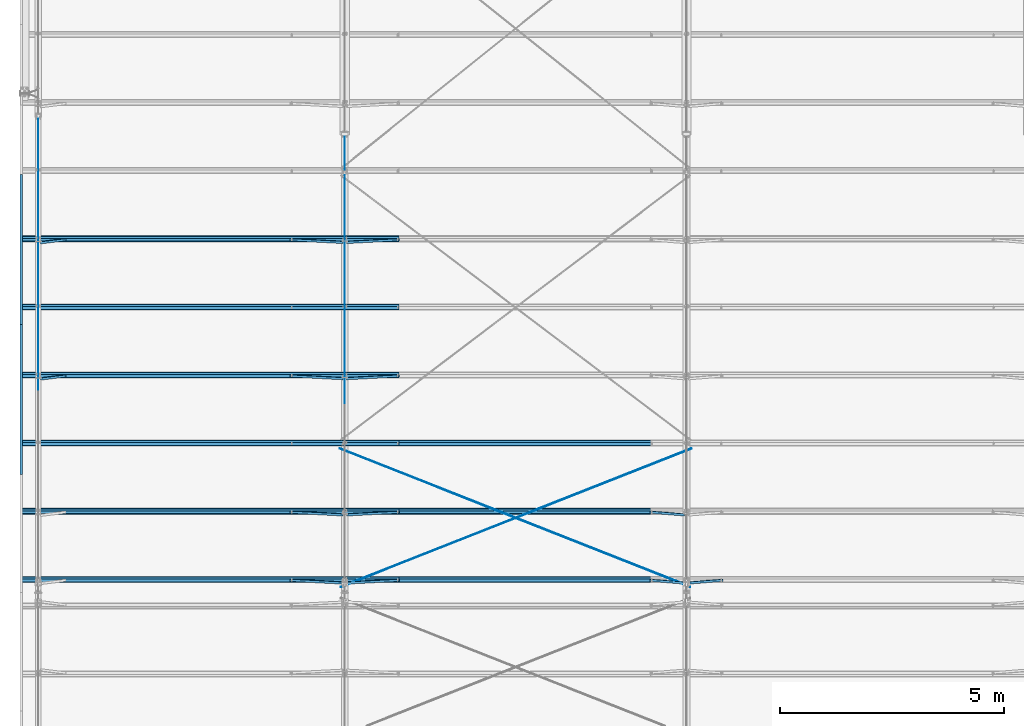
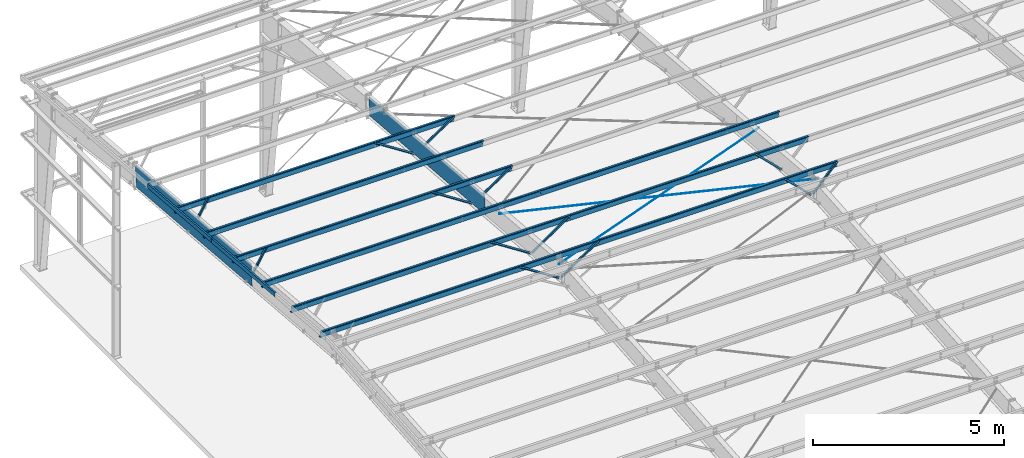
# One storey, part 11 of 185: 15 beams, 13 members, 28 elements without a shape of their own.
"""IFC2X3 building model written with IfcOpenShell, lengths in millimetres."""

from ifc_helpers import new_model, si_unit, frame, origin_with_axes, origin_2d_with_axis, place, context, subcontext, project, spatial, polyline, rectangle, circle, outline, extrude, clip, halfspace, material, type_object, element, aggregate, save


model = new_model("IFC2X3")

# Units and contexts
model_context = context("Model", 3, precision=1e-05, world=origin_with_axes())
body_context = subcontext(model_context, "Body", "Model", "MODEL_VIEW")
ifc_project = project(units=[si_unit("LENGTHUNIT", "METRE", prefix="MILLI"), si_unit("AREAUNIT", "SQUARE_METRE"), si_unit("VOLUMEUNIT", "CUBIC_METRE"), si_unit("MASSUNIT", "GRAM", prefix="KILO"), si_unit("TIMEUNIT", "SECOND"), si_unit("PLANEANGLEUNIT", "RADIAN"), si_unit("SOLIDANGLEUNIT", "STERADIAN"), si_unit("THERMODYNAMICTEMPERATUREUNIT", "DEGREE_CELSIUS"), si_unit("LUMINOUSINTENSITYUNIT", "LUMEN")], contexts=[model_context])

# Site, building, storey
site_placement = place(None, origin_with_axes())
site = spatial("IfcSite", under=ifc_project, at=site_placement, Name="Undefined", CompositionType="ELEMENT")
building_placement = place(site_placement, origin_with_axes())
building = spatial("IfcBuilding", under=site, at=building_placement, Name="Undefined", CompositionType="ELEMENT")
storey_placement = place(building_placement, origin_with_axes())
storey = spatial("IfcBuildingStorey", under=building, at=storey_placement, Name="Undefined", CompositionType="ELEMENT", Elevation=0.0)

# Assembly, beam
assembly_1_placement = place(storey_placement, origin_with_axes())
assembly_1 = element("IfcElementAssembly", 1, at=assembly_1_placement, inside=storey, Name="Steel Assembly", AssemblyPlace="NOTDEFINED", PredefinedType="RIGID_FRAME")
ifc_material = material(Name="STEEL/55")
beam_type_1 = type_object("IfcBeamType", Name="8Z15", PredefinedType="NOTDEFINED")
beam_1_placement = place(assembly_1_placement, frame((14859.0, 19334.7807729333, 7049.81610363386), z_axis=(0.0, -0.0830454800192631, -0.996545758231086), x_axis=(-1.0, 0.0, 0.0)))
beam_1 = element("IfcBeam", 2, at=beam_1_placement, type_object=beam_type_1, material=ifc_material, Name="Purlin", ObjectType="8Z15", context=body_context, shape_type="Clipping", body=[
    clip(clip(extrude(outline(polyline([(-75.75, 87.0100021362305), (-63.5, 101.599998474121), (1.5900000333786, 101.599998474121), (1.5900000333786, -98.4199981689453), (62.0200004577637, -98.4199981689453), (73.3099975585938, -84.9700012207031), (75.7399978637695, -87.0100021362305), (63.5, -101.599998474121), (-1.5900000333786, -101.599998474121), (-1.5900000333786, 98.4199981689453), (-62.0200004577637, 98.4199981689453), (-73.3099975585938, 84.9700012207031), (-75.75, 87.0100021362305)])), frame((8826.5, 0.0, 0.0), z_axis=(-1.0, 0.0, 0.0), x_axis=(0.0, -1.0, 0.0)), (0.0, 0.0, 1.0), 9626.6), halfspace(frame((8826.5, 2.91402102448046e-09, -101.600000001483), z_axis=(-1.0, 0.0, 0.0), x_axis=(0.0, 0.0, 1.0)), True)), halfspace(frame((-800.1, 2.91402102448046e-09, -101.600000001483), z_axis=(-1.0, 0.0, 0.0), x_axis=(0.0, 0.0, 1.0)), False)),
])
aggregate(assembly_1, [beam_1])

assembly_2_placement = place(storey_placement, origin_with_axes())
assembly_2 = element("IfcElementAssembly", 3, at=assembly_2_placement, inside=storey, Name="Steel Assembly", AssemblyPlace="NOTDEFINED", PredefinedType="RIGID_FRAME")
beam_2_placement = place(assembly_2_placement, frame((14859.0, 17816.0450373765, 7176.3774151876), z_axis=(0.0, -0.0830454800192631, -0.996545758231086), x_axis=(-1.0, 0.0, 0.0)))
beam_2 = element("IfcBeam", 4, at=beam_2_placement, type_object=beam_type_1, material=ifc_material, Name="Purlin", ObjectType="8Z15", context=body_context, shape_type="Clipping", body=[
    clip(clip(extrude(outline(polyline([(-75.75, 87.0100021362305), (-63.5, 101.599998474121), (1.5900000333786, 101.599998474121), (1.5900000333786, -98.4199981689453), (62.0200004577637, -98.4199981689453), (73.3099975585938, -84.9700012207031), (75.7399978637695, -87.0100021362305), (63.5, -101.599998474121), (-1.5900000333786, -101.599998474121), (-1.5900000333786, 98.4199981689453), (-62.0200004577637, 98.4199981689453), (-73.3099975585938, 84.9700012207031), (-75.75, 87.0100021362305)])), frame((8826.5, 0.0, 0.0), z_axis=(-1.0, 0.0, 0.0), x_axis=(0.0, -1.0, 0.0)), (0.0, 0.0, 1.0), 9626.6), halfspace(frame((8826.5, 2.91402102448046e-09, -101.600000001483), z_axis=(-1.0, 0.0, 0.0), x_axis=(0.0, 0.0, 1.0)), True)), halfspace(frame((-800.1, 2.91402102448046e-09, -101.600000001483), z_axis=(-1.0, 0.0, 0.0), x_axis=(0.0, 0.0, 1.0)), False)),
])
aggregate(assembly_2, [beam_2])

assembly_3_placement = place(storey_placement, origin_with_axes())
assembly_3 = element("IfcElementAssembly", 5, at=assembly_3_placement, inside=storey, Name="Steel Assembly", AssemblyPlace="NOTDEFINED", PredefinedType="RIGID_FRAME")
beam_3_placement = place(assembly_3_placement, frame((14859.0, 16297.3093018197, 7302.93872674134), z_axis=(0.0, -0.0830454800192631, -0.996545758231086), x_axis=(-1.0, 0.0, 0.0)))
beam_3 = element("IfcBeam", 6, at=beam_3_placement, type_object=beam_type_1, material=ifc_material, Name="Purlin", ObjectType="8Z15", context=body_context, shape_type="Clipping", body=[
    clip(clip(extrude(outline(polyline([(-75.75, 87.0100021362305), (-63.5, 101.599998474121), (1.5900000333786, 101.599998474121), (1.5900000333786, -98.4199981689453), (62.0200004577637, -98.4199981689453), (73.3099975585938, -84.9700012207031), (75.7399978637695, -87.0100021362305), (63.5, -101.599998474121), (-1.5900000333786, -101.599998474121), (-1.5900000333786, 98.4199981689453), (-62.0200004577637, 98.4199981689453), (-73.3099975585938, 84.9700012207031), (-75.75, 87.0100021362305)])), frame((8826.5, 0.0, 0.0), z_axis=(-1.0, 0.0, 0.0), x_axis=(0.0, -1.0, 0.0)), (0.0, 0.0, 1.0), 9626.6), halfspace(frame((8826.5, 2.91402102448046e-09, -101.600000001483), z_axis=(-1.0, 0.0, 0.0), x_axis=(0.0, 0.0, 1.0)), True)), halfspace(frame((-800.1, 2.91402102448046e-09, -101.600000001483), z_axis=(-1.0, 0.0, 0.0), x_axis=(0.0, 0.0, 1.0)), False)),
])
aggregate(assembly_3, [beam_3])

# Assembly, member
assembly_4_placement = place(storey_placement, origin_with_axes())
assembly_4 = element("IfcElementAssembly", 7, at=assembly_4_placement, inside=storey, Name="Steel Assembly", AssemblyPlace="NOTDEFINED", PredefinedType="RIGID_FRAME")
member_type = type_object("IfcMemberType", Name="FB-", PredefinedType="NOTDEFINED")
member_1_placement = place(assembly_4_placement, frame((7277.08732044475, 23833.3687176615, 5978.70102518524), z_axis=(-0.530152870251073, 0.0704144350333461, 0.844973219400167), x_axis=(0.847902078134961, 0.0440268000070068, 0.528321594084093)))
member_1 = element("IfcMember", 8, at=member_1_placement, type_object=member_type, material=ifc_material, Name="2X2 FLANGE BRACE X 48", ObjectType="FB-", context=body_context, shape_type="SweptSolid", body=[
    extrude(outline(polyline([(1.5900000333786, 1.59000003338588), (50.7999992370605, 1.59000003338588), (50.7999992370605, 7.27595761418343e-12), (0.0, 0.0), (0.0, 50.7999992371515), (1.5900000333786, 50.7999992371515), (1.5900000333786, 1.59000003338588)])), frame((1389.32938756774, -1.81898940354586e-12, 7.71232737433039e-14), z_axis=(-1.0, 0.0, 0.0), x_axis=(0.0, -1.0, 0.0)), (0.0, 0.0, 1.0), 1389.3),
])
aggregate(assembly_4, [member_1])

assembly_5_placement = place(storey_placement, origin_with_axes())
assembly_5 = element("IfcElementAssembly", 9, at=assembly_5_placement, inside=storey, Name="Steel Assembly", AssemblyPlace="NOTDEFINED", PredefinedType="RIGID_FRAME")
member_2_placement = place(assembly_5_placement, frame((7277.08732045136, 20795.897246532, 6231.82364778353), z_axis=(-0.530152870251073, 0.0704144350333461, 0.844973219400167), x_axis=(0.847902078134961, 0.0440268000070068, 0.528321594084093)))
member_2 = element("IfcMember", 10, at=member_2_placement, type_object=member_type, material=ifc_material, Name="2X2 FLANGE BRACE X 48", ObjectType="FB-", context=body_context, shape_type="SweptSolid", body=[
    extrude(outline(polyline([(1.5900000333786, 1.59000003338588), (50.7999992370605, 1.59000003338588), (50.7999992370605, 7.27595761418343e-12), (0.0, 0.0), (0.0, 50.7999992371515), (1.5900000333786, 50.7999992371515), (1.5900000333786, 1.59000003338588)])), frame((1389.32938756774, -1.81898940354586e-12, 7.71232737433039e-14), z_axis=(-1.0, 0.0, 0.0), x_axis=(0.0, -1.0, 0.0)), (0.0, 0.0, 1.0), 1389.3),
])
aggregate(assembly_5, [member_2])

assembly_6_placement = place(storey_placement, origin_with_axes())
assembly_6 = element("IfcElementAssembly", 11, at=assembly_6_placement, inside=storey, Name="Steel Assembly", AssemblyPlace="NOTDEFINED", PredefinedType="RIGID_FRAME")
member_3_placement = place(assembly_6_placement, frame((7277.08732047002, 17758.425775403, 6484.94627036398), z_axis=(-0.530152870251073, 0.0704144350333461, 0.844973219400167), x_axis=(0.847902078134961, 0.0440268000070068, 0.528321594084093)))
member_3 = element("IfcMember", 12, at=member_3_placement, type_object=member_type, material=ifc_material, Name="2X2 FLANGE BRACE X 48", ObjectType="FB-", context=body_context, shape_type="SweptSolid", body=[
    extrude(outline(polyline([(1.5900000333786, 1.59000003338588), (50.7999992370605, 1.59000003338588), (50.7999992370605, 7.27595761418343e-12), (0.0, 0.0), (0.0, 50.7999992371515), (1.5900000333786, 50.7999992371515), (1.5900000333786, 1.59000003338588)])), frame((1389.32938756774, -1.81898940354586e-12, 7.71232737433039e-14), z_axis=(-1.0, 0.0, 0.0), x_axis=(0.0, -1.0, 0.0)), (0.0, 0.0, 1.0), 1389.3),
])
aggregate(assembly_6, [member_3])

assembly_7_placement = place(storey_placement, origin_with_axes())
assembly_7 = element("IfcElementAssembly", 13, at=assembly_7_placement, inside=storey, Name="Steel Assembly", AssemblyPlace="NOTDEFINED", PredefinedType="RIGID_FRAME")
member_4_placement = place(assembly_7_placement, frame((14904.6857108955, 16239.6140265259, 6610.59542169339), z_axis=(-0.697745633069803, 0.0594892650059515, 0.713871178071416), x_axis=(0.716345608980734, 0.0579446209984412, 0.6953354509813)))
member_4 = element("IfcMember", 14, at=member_4_placement, type_object=member_type, material=ifc_material, Name="2X2 FLANGE BRACE X 48", ObjectType="FB-", context=body_context, shape_type="SweptSolid", body=[
    extrude(outline(polyline([(1.5900000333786, 1.59000003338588), (50.7999992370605, 1.59000003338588), (50.7999992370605, 7.27595761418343e-12), (0.0, 0.0), (0.0, 50.7999992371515), (1.5900000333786, 50.7999992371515), (1.5900000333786, 1.59000003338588)])), frame((1067.82563693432, 1.82639893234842e-12, 1.75971317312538e-12), z_axis=(-1.0, 0.0, 0.0), x_axis=(0.0, -1.0, 0.0)), (0.0, 0.0, 1.0), 1067.8),
])
aggregate(assembly_7, [member_4])

assembly_8_placement = place(storey_placement, origin_with_axes())
assembly_8 = element("IfcElementAssembly", 15, at=assembly_8_placement, inside=storey, Name="Steel Assembly", AssemblyPlace="NOTDEFINED", PredefinedType="RIGID_FRAME")
member_5_placement = place(assembly_8_placement, frame((7277.08732047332, 16239.6900398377, 6611.50758166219), z_axis=(-0.530152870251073, 0.0704144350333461, 0.844973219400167), x_axis=(0.847902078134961, 0.0440268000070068, 0.528321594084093)))
member_5 = element("IfcMember", 16, at=member_5_placement, type_object=member_type, material=ifc_material, Name="2X2 FLANGE BRACE X 48", ObjectType="FB-", context=body_context, shape_type="SweptSolid", body=[
    extrude(outline(polyline([(1.5900000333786, 1.59000003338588), (50.7999992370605, 1.59000003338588), (50.7999992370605, 7.27595761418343e-12), (0.0, 0.0), (0.0, 50.7999992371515), (1.5900000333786, 50.7999992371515), (1.5900000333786, 1.59000003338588)])), frame((1389.32938756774, -1.81898940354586e-12, 7.71232737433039e-14), z_axis=(-1.0, 0.0, 0.0), x_axis=(0.0, -1.0, 0.0)), (0.0, 0.0, 1.0), 1389.3),
])
aggregate(assembly_8, [member_5])

assembly_9_placement = place(storey_placement, origin_with_axes())
assembly_9 = element("IfcElementAssembly", 17, at=assembly_9_placement, inside=storey, Name="Steel Assembly", AssemblyPlace="NOTDEFINED", PredefinedType="RIGID_FRAME")
member_6_placement = place(assembly_9_placement, frame((7200.91267952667, 16239.6900398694, 6611.50758164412), z_axis=(0.0, -0.996545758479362, 0.0830454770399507), x_axis=(-0.847902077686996, 0.0440267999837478, 0.52832159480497)))
member_6 = element("IfcMember", 18, at=member_6_placement, type_object=member_type, material=ifc_material, Name="2X2 FLANGE BRACE X 48", ObjectType="FB-", context=body_context, shape_type="SweptSolid", body=[
    extrude(outline(polyline([(1.5900000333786, 1.59000003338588), (50.7999992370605, 1.59000003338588), (50.7999992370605, 7.27595761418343e-12), (0.0, 0.0), (0.0, 50.7999992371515), (1.5900000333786, 50.7999992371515), (1.5900000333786, 1.59000003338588)])), frame((1389.32938756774, -1.81898940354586e-12, 7.71232737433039e-14), z_axis=(-1.0, 0.0, 0.0), x_axis=(0.0, -1.0, 0.0)), (0.0, 0.0, 1.0), 1389.3),
])
aggregate(assembly_9, [member_6])

assembly_10_placement = place(storey_placement, origin_with_axes())
assembly_10 = element("IfcElementAssembly", 19, at=assembly_10_placement, inside=storey, Name="Steel Assembly", AssemblyPlace="NOTDEFINED", PredefinedType="RIGID_FRAME")
member_7_placement = place(assembly_10_placement, frame((7200.91267952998, 17758.4257754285, 6484.94627034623), z_axis=(0.0, -0.996545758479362, 0.0830454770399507), x_axis=(-0.847902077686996, 0.0440267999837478, 0.52832159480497)))
member_7 = element("IfcMember", 20, at=member_7_placement, type_object=member_type, material=ifc_material, Name="2X2 FLANGE BRACE X 48", ObjectType="FB-", context=body_context, shape_type="SweptSolid", body=[
    extrude(outline(polyline([(1.5900000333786, 1.59000003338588), (50.7999992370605, 1.59000003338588), (50.7999992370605, 7.27595761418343e-12), (0.0, 0.0), (0.0, 50.7999992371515), (1.5900000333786, 50.7999992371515), (1.5900000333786, 1.59000003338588)])), frame((1389.32938756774, -1.81898940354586e-12, 7.71232737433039e-14), z_axis=(-1.0, 0.0, 0.0), x_axis=(0.0, -1.0, 0.0)), (0.0, 0.0, 1.0), 1389.3),
])
aggregate(assembly_10, [member_7])

assembly_11_placement = place(storey_placement, origin_with_axes())
assembly_11 = element("IfcElementAssembly", 21, at=assembly_11_placement, inside=storey, Name="Steel Assembly", AssemblyPlace="NOTDEFINED", PredefinedType="RIGID_FRAME")
member_8_placement = place(assembly_11_placement, frame((7200.91267954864, 20795.8972465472, 6231.82364777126), z_axis=(0.0, -0.996545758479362, 0.0830454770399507), x_axis=(-0.847902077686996, 0.0440267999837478, 0.52832159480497)))
member_8 = element("IfcMember", 22, at=member_8_placement, type_object=member_type, material=ifc_material, Name="2X2 FLANGE BRACE X 48", ObjectType="FB-", context=body_context, shape_type="SweptSolid", body=[
    extrude(outline(polyline([(1.5900000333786, 1.59000003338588), (50.7999992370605, 1.59000003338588), (50.7999992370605, 7.27595761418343e-12), (0.0, 0.0), (0.0, 50.7999992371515), (1.5900000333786, 50.7999992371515), (1.5900000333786, 1.59000003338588)])), frame((1389.32938756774, -1.81898940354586e-12, 7.71232737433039e-14), z_axis=(-1.0, 0.0, 0.0), x_axis=(0.0, -1.0, 0.0)), (0.0, 0.0, 1.0), 1389.3),
])
aggregate(assembly_11, [member_8])

assembly_12_placement = place(storey_placement, origin_with_axes())
assembly_12 = element("IfcElementAssembly", 23, at=assembly_12_placement, inside=storey, Name="Steel Assembly", AssemblyPlace="NOTDEFINED", PredefinedType="RIGID_FRAME")
member_9_placement = place(assembly_12_placement, frame((7200.91267955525, 23833.3687176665, 5978.70102517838), z_axis=(0.0, -0.996545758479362, 0.0830454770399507), x_axis=(-0.847902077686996, 0.0440267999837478, 0.52832159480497)))
member_9 = element("IfcMember", 24, at=member_9_placement, type_object=member_type, material=ifc_material, Name="2X2 FLANGE BRACE X 48", ObjectType="FB-", context=body_context, shape_type="SweptSolid", body=[
    extrude(outline(polyline([(1.5900000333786, 1.59000003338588), (50.7999992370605, 1.59000003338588), (50.7999992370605, 7.27595761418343e-12), (0.0, 0.0), (0.0, 50.7999992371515), (1.5900000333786, 50.7999992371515), (1.5900000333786, 1.59000003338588)])), frame((1389.32938756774, -1.81898940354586e-12, 7.71232737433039e-14), z_axis=(-1.0, 0.0, 0.0), x_axis=(0.0, -1.0, 0.0)), (0.0, 0.0, 1.0), 1389.3),
])
aggregate(assembly_12, [member_9])

assembly_13_placement = place(storey_placement, origin_with_axes())
assembly_13 = element("IfcElementAssembly", 25, at=assembly_13_placement, inside=storey, Name="Steel Assembly", AssemblyPlace="NOTDEFINED", PredefinedType="RIGID_FRAME")
member_10_placement = place(assembly_13_placement, frame((459.654333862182, 20787.575231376, 6131.95946565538), z_axis=(-0.832860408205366, 0.0459642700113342, 0.551571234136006), x_axis=(0.553483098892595, 0.0691652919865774, 0.829983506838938)))
member_10 = element("IfcMember", 26, at=member_10_placement, type_object=member_type, material=ifc_material, Name="2X2 FLANGE BRACE X 48", ObjectType="FB-", context=body_context, shape_type="SweptSolid", body=[
    extrude(outline(polyline([(1.5900000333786, 1.59000003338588), (50.7999992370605, 1.59000003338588), (50.7999992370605, 7.27595761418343e-12), (0.0, 0.0), (0.0, 50.7999992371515), (1.5900000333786, 50.7999992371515), (1.5900000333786, 1.59000003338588)])), frame((1022.90167929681, -5.11529800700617e-13, 1.83318501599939e-12), z_axis=(-1.0, 0.0, 0.0), x_axis=(0.0, -1.0, 0.0)), (0.0, 0.0, 1.0), 1022.9),
])
aggregate(assembly_13, [member_10])

assembly_14_placement = place(storey_placement, origin_with_axes())
assembly_14 = element("IfcElementAssembly", 27, at=assembly_14_placement, inside=storey, Name="Steel Assembly", AssemblyPlace="NOTDEFINED", PredefinedType="RIGID_FRAME")
member_11_placement = place(assembly_14_placement, frame((459.654333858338, 23825.0467025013, 5878.83684304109), z_axis=(-0.832860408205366, 0.0459642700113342, 0.551571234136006), x_axis=(0.553483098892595, 0.0691652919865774, 0.829983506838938)))
member_11 = element("IfcMember", 28, at=member_11_placement, type_object=member_type, material=ifc_material, Name="2X2 FLANGE BRACE X 48", ObjectType="FB-", context=body_context, shape_type="SweptSolid", body=[
    extrude(outline(polyline([(1.5900000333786, 1.59000003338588), (50.7999992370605, 1.59000003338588), (50.7999992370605, 7.27595761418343e-12), (0.0, 0.0), (0.0, 50.7999992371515), (1.5900000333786, 50.7999992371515), (1.5900000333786, 1.59000003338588)])), frame((1022.90167929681, -5.11529800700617e-13, 1.83318501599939e-12), z_axis=(-1.0, 0.0, 0.0), x_axis=(0.0, -1.0, 0.0)), (0.0, 0.0, 1.0), 1022.9),
])
aggregate(assembly_14, [member_11])

assembly_15_placement = place(storey_placement, origin_with_axes())
assembly_15 = element("IfcElementAssembly", 29, at=assembly_15_placement, inside=storey, Name="Steel Assembly", AssemblyPlace="NOTDEFINED", PredefinedType="RIGID_FRAME")
member_12_placement = place(assembly_15_placement, frame((14813.3142891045, 16239.6140265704, 6610.59542170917), z_axis=(0.0, -0.996545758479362, 0.0830454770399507), x_axis=(-0.716345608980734, 0.0579446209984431, 0.6953354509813)))
member_12 = element("IfcMember", 30, at=member_12_placement, type_object=member_type, material=ifc_material, Name="2X2 FLANGE BRACE X 48", ObjectType="FB-", context=body_context, shape_type="SweptSolid", body=[
    extrude(outline(polyline([(1.5900000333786, 1.59000003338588), (50.7999992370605, 1.59000003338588), (50.7999992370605, 7.27595761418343e-12), (0.0, 0.0), (0.0, 50.7999992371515), (1.5900000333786, 50.7999992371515), (1.5900000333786, 1.59000003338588)])), frame((1067.82563693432, 1.82639893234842e-12, 1.75971317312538e-12), z_axis=(-1.0, 0.0, 0.0), x_axis=(0.0, -1.0, 0.0)), (0.0, 0.0, 1.0), 1067.8),
])
aggregate(assembly_15, [member_12])

assembly_16_placement = place(storey_placement, origin_with_axes())
assembly_16 = element("IfcElementAssembly", 31, at=assembly_16_placement, inside=storey, Name="Steel Assembly", AssemblyPlace="NOTDEFINED", PredefinedType="RIGID_FRAME")
member_13_placement = place(assembly_16_placement, frame((14813.3142891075, 17758.3497621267, 6484.03411039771), z_axis=(0.0, -0.996545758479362, 0.0830454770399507), x_axis=(-0.716345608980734, 0.0579446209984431, 0.6953354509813)))
member_13 = element("IfcMember", 32, at=member_13_placement, type_object=member_type, material=ifc_material, Name="2X2 FLANGE BRACE X 48", ObjectType="FB-", context=body_context, shape_type="SweptSolid", body=[
    extrude(outline(polyline([(1.5900000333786, 1.59000003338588), (50.7999992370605, 1.59000003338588), (50.7999992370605, 7.27595761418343e-12), (0.0, 0.0), (0.0, 50.7999992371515), (1.5900000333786, 50.7999992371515), (1.5900000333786, 1.59000003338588)])), frame((1067.82563693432, 1.82639893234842e-12, 1.75971317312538e-12), z_axis=(-1.0, 0.0, 0.0), x_axis=(0.0, -1.0, 0.0)), (0.0, 0.0, 1.0), 1067.8),
])
aggregate(assembly_16, [member_13])

# Assembly, beam
assembly_17_placement = place(storey_placement, origin_with_axes())
assembly_17 = element("IfcElementAssembly", 33, at=assembly_17_placement, inside=storey, Name="Steel Assembly", AssemblyPlace="NOTDEFINED", PredefinedType="RIGID_FRAME")
beam_type_2 = type_object("IfcBeamType", Name="RA-1", PredefinedType="NOTDEFINED")
beam_4_placement = place(assembly_17_placement, frame((0.0, 21980.2988665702, 6930.76139236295), z_axis=(0.0, -0.0830701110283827, -0.996543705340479), x_axis=(0.0, -0.996543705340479, 0.0830701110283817)))
beam_4 = element("IfcBeam", 34, at=beam_4_placement, type_object=beam_type_2, material=ifc_material, Name="STANDARD RAKE ANGLE", ObjectType="RA-1", context=body_context, shape_type="SweptSolid", body=[
    extrude(outline(polyline([(0.0, 0.0), (50.7999992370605, 7.27595761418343e-12), (50.7999992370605, -1.51999998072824), (-1.51999998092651, -1.51999998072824), (-1.51999998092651, 127.000000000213), (0.0, 127.000000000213), (0.0, 0.0)])), frame((3352.80000002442, 0.0, -1.86551885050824e-12), z_axis=(-1.0, 0.0, 0.0), x_axis=(0.0, -1.0, 0.0)), (0.0, 0.0, 1.0), 3352.8),
])
aggregate(assembly_17, [beam_4])

assembly_18_placement = place(storey_placement, origin_with_axes())
assembly_18 = element("IfcElementAssembly", 35, at=assembly_18_placement, inside=storey, Name="Steel Assembly", AssemblyPlace="NOTDEFINED", PredefinedType="RIGID_FRAME")
beam_5_placement = place(assembly_18_placement, frame((0.0, 25321.5106020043, 6652.24392577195), z_axis=(0.0, -0.0830701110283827, -0.996543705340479), x_axis=(0.0, -0.996543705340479, 0.0830701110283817)))
beam_5 = element("IfcBeam", 36, at=beam_5_placement, type_object=beam_type_2, material=ifc_material, Name="STANDARD RAKE ANGLE", ObjectType="RA-1", context=body_context, shape_type="SweptSolid", body=[
    extrude(outline(polyline([(0.0, 0.0), (50.7999992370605, 7.27595761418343e-12), (50.7999992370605, -1.51999998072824), (-1.51999998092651, -1.51999998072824), (-1.51999998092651, 127.000000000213), (0.0, 127.000000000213), (0.0, 0.0)])), frame((3352.80000002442, 0.0, -1.86551885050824e-12), z_axis=(-1.0, 0.0, 0.0), x_axis=(0.0, -1.0, 0.0)), (0.0, 0.0, 1.0), 3352.8),
])
aggregate(assembly_18, [beam_5])

assembly_19_placement = place(storey_placement, origin_with_axes())
assembly_19 = element("IfcElementAssembly", 37, at=assembly_19_placement, inside=storey, Name="Steel Assembly", AssemblyPlace="NOTDEFINED", PredefinedType="RIGID_FRAME")
beam_type_3 = type_object("IfcBeamType", Name="RB3/4\"", PredefinedType="NOTDEFINED")
beam_6_placement = place(assembly_19_placement, frame((14969.6980639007, 19213.2829306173, 6899.03491773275), z_axis=(0.0158744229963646, 0.0430217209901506, 0.998948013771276), x_axis=(-0.929747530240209, -0.366925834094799, 0.0305771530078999)))
beam_6 = element("IfcBeam", 38, at=beam_6_placement, type_object=beam_type_3, material=ifc_material, Name="ROD BRACE - 3/4", ObjectType="RB3/4\"", context=body_context, shape_type="SweptSolid", body=[
    extrude(circle(Radius=9.525, at=origin_2d_with_axis()), frame((8406.91081267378, 5.39498763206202e-12, -9.09494701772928e-13), z_axis=(-1.0, 0.0, 0.0), x_axis=(0.0, -1.0, 0.0)), (0.0, 0.0, 1.0), 8406.9),
])
aggregate(assembly_19, [beam_6])

assembly_20_placement = place(storey_placement, origin_with_axes())
assembly_20 = element("IfcElementAssembly", 39, at=assembly_20_placement, inside=storey, Name="Steel Assembly", AssemblyPlace="NOTDEFINED", PredefinedType="RIGID_FRAME")
beam_7_placement = place(assembly_20_placement, frame((7128.30193609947, 19213.2829305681, 6899.03491774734), z_axis=(-0.0157149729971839, 0.0434245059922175, 0.998933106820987), x_axis=(0.929747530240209, -0.366925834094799, 0.0305771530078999)))
beam_7 = element("IfcBeam", 40, at=beam_7_placement, type_object=beam_type_3, material=ifc_material, Name="ROD BRACE - 3/4", ObjectType="RB3/4\"", context=body_context, shape_type="SweptSolid", body=[
    extrude(circle(Radius=9.525, at=origin_2d_with_axis()), frame((8406.91081267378, 5.39498763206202e-12, -9.09494701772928e-13), z_axis=(-1.0, 0.0, 0.0), x_axis=(0.0, -1.0, 0.0)), (0.0, 0.0, 1.0), 8406.9),
])
aggregate(assembly_20, [beam_7])

assembly_21_placement = place(storey_placement, origin_with_axes())
assembly_21 = element("IfcElementAssembly", 41, at=assembly_21_placement, inside=storey, Name="Steel Assembly", AssemblyPlace="NOTDEFINED", PredefinedType="RIGID_FRAME")
beam_type_4 = type_object("IfcBeamType", Name="8Z13", PredefinedType="NOTDEFINED")
beam_8_placement = place(assembly_21_placement, frame((7239.0, 23890.9879796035, 6670.13216897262), z_axis=(0.0, -0.0830454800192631, -0.996545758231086), x_axis=(-1.0, 0.0, 0.0)))
beam_8 = element("IfcBeam", 42, at=beam_8_placement, type_object=beam_type_4, material=ifc_material, Name="Purlin", ObjectType="8Z13", context=body_context, shape_type="Clipping", body=[
    clip(clip(extrude(outline(polyline([(-62.0200004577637, 98.4199981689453), (-73.3099975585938, 84.9700012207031), (-75.75, 87.0100021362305), (-63.5, 101.599998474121), (1.5900000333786, 101.599998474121), (1.5900000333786, -98.4199981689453), (62.0200004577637, -98.4199981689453), (73.3099975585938, -84.9700012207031), (75.7399978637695, -87.0100021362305), (63.5, -101.599998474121), (-1.5900000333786, -101.599998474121), (-1.5900000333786, 98.4199981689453), (-62.0200004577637, 98.4199981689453)])), frame((7226.3, 0.0, 0.0), z_axis=(-1.0, 0.0, 0.0), x_axis=(0.0, -1.0, 0.0)), (0.0, 0.0, 1.0), 8432.8), halfspace(frame((7226.3, 2.91402102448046e-09, -101.600000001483), z_axis=(-1.0, 0.0, 0.0), x_axis=(0.0, 0.0, -1.0)), True)), halfspace(frame((-1206.5, 2.91402102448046e-09, -101.600000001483), z_axis=(-1.0, 0.0, 0.0), x_axis=(0.0, 0.0, 1.0)), False)),
])
aggregate(assembly_21, [beam_8])

assembly_22_placement = place(storey_placement, origin_with_axes())
assembly_22 = element("IfcElementAssembly", 43, at=assembly_22_placement, inside=storey, Name="Steel Assembly", AssemblyPlace="NOTDEFINED", PredefinedType="RIGID_FRAME")
beam_9_placement = place(assembly_22_placement, frame((7239.0, 22372.2522440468, 6796.69348052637), z_axis=(0.0, -0.0830454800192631, -0.996545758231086), x_axis=(-1.0, 0.0, 0.0)))
beam_9 = element("IfcBeam", 44, at=beam_9_placement, type_object=beam_type_4, material=ifc_material, Name="Purlin", ObjectType="8Z13", context=body_context, shape_type="Clipping", body=[
    clip(clip(extrude(outline(polyline([(-62.0200004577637, 98.4199981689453), (-73.3099975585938, 84.9700012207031), (-75.75, 87.0100021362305), (-63.5, 101.599998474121), (1.5900000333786, 101.599998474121), (1.5900000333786, -98.4199981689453), (62.0200004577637, -98.4199981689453), (73.3099975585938, -84.9700012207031), (75.7399978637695, -87.0100021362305), (63.5, -101.599998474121), (-1.5900000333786, -101.599998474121), (-1.5900000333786, 98.4199981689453), (-62.0200004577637, 98.4199981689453)])), frame((7226.3, 0.0, 0.0), z_axis=(-1.0, 0.0, 0.0), x_axis=(0.0, -1.0, 0.0)), (0.0, 0.0, 1.0), 8432.8), halfspace(frame((7226.3, 2.91402102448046e-09, -101.600000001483), z_axis=(-1.0, 0.0, 0.0), x_axis=(0.0, 0.0, -1.0)), True)), halfspace(frame((-1206.5, 2.91402102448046e-09, -101.600000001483), z_axis=(-1.0, 0.0, 0.0), x_axis=(0.0, 0.0, 1.0)), False)),
])
aggregate(assembly_22, [beam_9])

assembly_23_placement = place(storey_placement, origin_with_axes())
assembly_23 = element("IfcElementAssembly", 45, at=assembly_23_placement, inside=storey, Name="Steel Assembly", AssemblyPlace="NOTDEFINED", PredefinedType="RIGID_FRAME")
beam_10_placement = place(assembly_23_placement, frame((7239.0, 20853.51650849, 6923.25479208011), z_axis=(0.0, -0.0830454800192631, -0.996545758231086), x_axis=(-1.0, 0.0, 0.0)))
beam_10 = element("IfcBeam", 46, at=beam_10_placement, type_object=beam_type_4, material=ifc_material, Name="Purlin", ObjectType="8Z13", context=body_context, shape_type="Clipping", body=[
    clip(clip(extrude(outline(polyline([(-62.0200004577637, 98.4199981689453), (-73.3099975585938, 84.9700012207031), (-75.75, 87.0100021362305), (-63.5, 101.599998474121), (1.5900000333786, 101.599998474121), (1.5900000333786, -98.4199981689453), (62.0200004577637, -98.4199981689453), (73.3099975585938, -84.9700012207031), (75.7399978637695, -87.0100021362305), (63.5, -101.599998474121), (-1.5900000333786, -101.599998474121), (-1.5900000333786, 98.4199981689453), (-62.0200004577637, 98.4199981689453)])), frame((7226.3, 0.0, 0.0), z_axis=(-1.0, 0.0, 0.0), x_axis=(0.0, -1.0, 0.0)), (0.0, 0.0, 1.0), 8432.8), halfspace(frame((7226.3, 2.91402102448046e-09, -101.600000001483), z_axis=(-1.0, 0.0, 0.0), x_axis=(0.0, 0.0, -1.0)), True)), halfspace(frame((-1206.5, 2.91402102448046e-09, -101.600000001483), z_axis=(-1.0, 0.0, 0.0), x_axis=(0.0, 0.0, 1.0)), False)),
])
aggregate(assembly_23, [beam_10])

assembly_24_placement = place(storey_placement, origin_with_axes())
assembly_24 = element("IfcElementAssembly", 47, at=assembly_24_placement, inside=storey, Name="Steel Assembly", AssemblyPlace="NOTDEFINED", PredefinedType="RIGID_FRAME")
beam_11_placement = place(assembly_24_placement, frame((7239.0, 19334.7807729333, 7049.81610363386), z_axis=(0.0, -0.0830454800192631, -0.996545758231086), x_axis=(-1.0, 0.0, 0.0)))
beam_11 = element("IfcBeam", 48, at=beam_11_placement, type_object=beam_type_4, material=ifc_material, Name="Purlin", ObjectType="8Z13", context=body_context, shape_type="Clipping", body=[
    clip(clip(extrude(outline(polyline([(-62.0200004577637, 98.4199981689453), (-73.3099975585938, 84.9700012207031), (-75.75, 87.0100021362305), (-63.5, 101.599998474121), (1.5900000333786, 101.599998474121), (1.5900000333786, -98.4199981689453), (62.0200004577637, -98.4199981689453), (73.3099975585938, -84.9700012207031), (75.7399978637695, -87.0100021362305), (63.5, -101.599998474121), (-1.5900000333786, -101.599998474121), (-1.5900000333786, 98.4199981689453), (-62.0200004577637, 98.4199981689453)])), frame((7226.3, 0.0, 0.0), z_axis=(-1.0, 0.0, 0.0), x_axis=(0.0, -1.0, 0.0)), (0.0, 0.0, 1.0), 8432.8), halfspace(frame((7226.3, 2.91402102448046e-09, -101.600000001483), z_axis=(-1.0, 0.0, 0.0), x_axis=(0.0, 0.0, -1.0)), True)), halfspace(frame((-1206.5, 2.91402102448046e-09, -101.600000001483), z_axis=(-1.0, 0.0, 0.0), x_axis=(0.0, 0.0, 1.0)), False)),
])
aggregate(assembly_24, [beam_11])

assembly_25_placement = place(storey_placement, origin_with_axes())
assembly_25 = element("IfcElementAssembly", 49, at=assembly_25_placement, inside=storey, Name="Steel Assembly", AssemblyPlace="NOTDEFINED", PredefinedType="RIGID_FRAME")
beam_12_placement = place(assembly_25_placement, frame((7239.0, 17816.0450373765, 7176.3774151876), z_axis=(0.0, -0.0830454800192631, -0.996545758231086), x_axis=(-1.0, 0.0, 0.0)))
beam_12 = element("IfcBeam", 50, at=beam_12_placement, type_object=beam_type_4, material=ifc_material, Name="Purlin", ObjectType="8Z13", context=body_context, shape_type="Clipping", body=[
    clip(clip(extrude(outline(polyline([(-62.0200004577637, 98.4199981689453), (-73.3099975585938, 84.9700012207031), (-75.75, 87.0100021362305), (-63.5, 101.599998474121), (1.5900000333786, 101.599998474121), (1.5900000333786, -98.4199981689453), (62.0200004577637, -98.4199981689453), (73.3099975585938, -84.9700012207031), (75.7399978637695, -87.0100021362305), (63.5, -101.599998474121), (-1.5900000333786, -101.599998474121), (-1.5900000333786, 98.4199981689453), (-62.0200004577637, 98.4199981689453)])), frame((7226.3, 0.0, 0.0), z_axis=(-1.0, 0.0, 0.0), x_axis=(0.0, -1.0, 0.0)), (0.0, 0.0, 1.0), 8432.8), halfspace(frame((7226.3, 2.91402102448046e-09, -101.600000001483), z_axis=(-1.0, 0.0, 0.0), x_axis=(0.0, 0.0, -1.0)), True)), halfspace(frame((-1206.5, 2.91402102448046e-09, -101.600000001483), z_axis=(-1.0, 0.0, 0.0), x_axis=(0.0, 0.0, 1.0)), False)),
])
aggregate(assembly_25, [beam_12])

assembly_26_placement = place(storey_placement, origin_with_axes())
assembly_26 = element("IfcElementAssembly", 51, at=assembly_26_placement, inside=storey, Name="Steel Assembly", AssemblyPlace="NOTDEFINED", PredefinedType="RIGID_FRAME")
beam_13_placement = place(assembly_26_placement, frame((7239.0, 16297.3093018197, 7302.93872674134), z_axis=(0.0, -0.0830454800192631, -0.996545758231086), x_axis=(-1.0, 0.0, 0.0)))
beam_13 = element("IfcBeam", 52, at=beam_13_placement, type_object=beam_type_4, material=ifc_material, Name="Purlin", ObjectType="8Z13", context=body_context, shape_type="Clipping", body=[
    clip(clip(extrude(outline(polyline([(-62.0200004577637, 98.4199981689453), (-73.3099975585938, 84.9700012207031), (-75.75, 87.0100021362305), (-63.5, 101.599998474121), (1.5900000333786, 101.599998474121), (1.5900000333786, -98.4199981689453), (62.0200004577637, -98.4199981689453), (73.3099975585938, -84.9700012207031), (75.7399978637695, -87.0100021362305), (63.5, -101.599998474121), (-1.5900000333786, -101.599998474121), (-1.5900000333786, 98.4199981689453), (-62.0200004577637, 98.4199981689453)])), frame((7226.3, 0.0, 0.0), z_axis=(-1.0, 0.0, 0.0), x_axis=(0.0, -1.0, 0.0)), (0.0, 0.0, 1.0), 8432.8), halfspace(frame((7226.3, 2.91402102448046e-09, -101.600000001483), z_axis=(-1.0, 0.0, 0.0), x_axis=(0.0, 0.0, -1.0)), True)), halfspace(frame((-1206.5, 2.91402102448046e-09, -101.600000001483), z_axis=(-1.0, 0.0, 0.0), x_axis=(0.0, 0.0, 1.0)), False)),
])
aggregate(assembly_26, [beam_13])

assembly_27_placement = place(storey_placement, origin_with_axes())
assembly_27 = element("IfcElementAssembly", 53, at=assembly_27_placement, inside=storey, Name="Steel Assembly", AssemblyPlace="NOTDEFINED", PredefinedType="RIGID_FRAME")
beam_type_5 = type_object("IfcBeamType", Name="PL1/8\"X28\"", PredefinedType="NOTDEFINED")
beam_14_placement = place(assembly_27_placement, frame((406.400000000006, 26630.9769289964, 5976.64299177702), z_axis=(0.0, 0.0830454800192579, 0.996545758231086), x_axis=(0.0, -0.996545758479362, 0.0830454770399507)))
beam_14 = element("IfcBeam", 54, at=beam_14_placement, type_object=beam_type_5, material=ifc_material, Name="Web", ObjectType="PL1/8\"X28\"", context=body_context, shape_type="Clipping", body=[
    clip(extrude(rectangle(XDim=3.4163, YDim=711.19999999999, at=origin_2d_with_axis()), frame((6095.99999991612, 0.0, -8.45989944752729e-14), z_axis=(-1.0, 0.0, 0.0), x_axis=(0.0, -1.0, 0.0)), (0.0, 0.0, 1.0), 6096.0), halfspace(frame((3.82096914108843e-08, 0.0, 355.599999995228), z_axis=(-1.0, 0.0, 0.0), x_axis=(0.0, -1.0, 0.0)), False)),
])
aggregate(assembly_27, [beam_14])

assembly_28_placement = place(storey_placement, origin_with_axes())
assembly_28 = element("IfcElementAssembly", 55, at=assembly_28_placement, inside=storey, Name="Steel Assembly", AssemblyPlace="NOTDEFINED", PredefinedType="RIGID_FRAME")
beam_type_6 = type_object("IfcBeamType", Name="PL1/8\"X24\"", PredefinedType="NOTDEFINED")
beam_15_placement = place(assembly_28_placement, frame((7239.0, 26230.320078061, 6059.4014033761), z_axis=(0.0, 0.0830454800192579, 0.996545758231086), x_axis=(0.0, -0.996545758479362, 0.0830454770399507)))
beam_15 = element("IfcBeam", 56, at=beam_15_placement, type_object=beam_type_6, material=ifc_material, Name="Web", ObjectType="PL1/8\"X24\"", context=body_context, shape_type="Clipping", body=[
    clip(extrude(rectangle(XDim=3.4163, YDim=609.59999999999, at=origin_2d_with_axis()), frame((6095.99999991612, 0.0, -8.45989944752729e-14), z_axis=(-1.0, 0.0, 0.0), x_axis=(0.0, -1.0, 0.0)), (0.0, 0.0, 1.0), 6096.0), halfspace(frame((2.96531652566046e-08, 0.0, 304.799999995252), z_axis=(-1.0, 0.0, 0.0), x_axis=(0.0, -1.0, 0.0)), False)),
])
aggregate(assembly_28, [beam_15])

save(model, "model.ifc")
